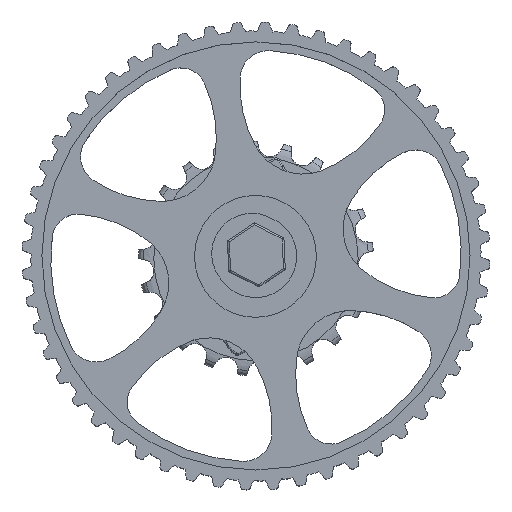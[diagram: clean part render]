
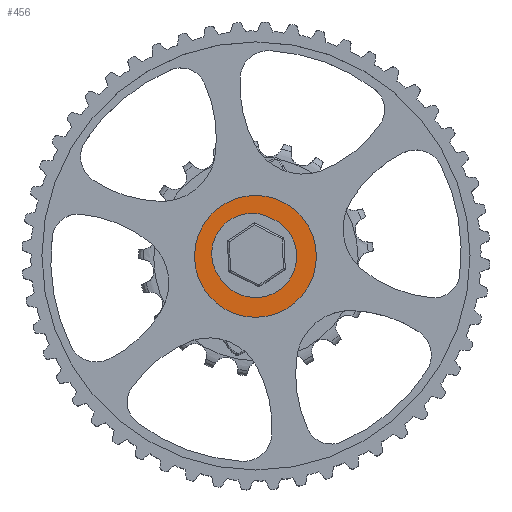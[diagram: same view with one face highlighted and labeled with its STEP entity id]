
A CAD part, top view. The second image highlights one B-rep face of the part: STEP entity #456.
In plain terms, the highlighted free-form (B-spline) face has degree [1, 1] with [2, 2] control points.
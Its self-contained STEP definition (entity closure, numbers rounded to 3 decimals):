
#456=ADVANCED_FACE('',(#1758,#1759),#1760,.T.);
#1758=FACE_BOUND('',#13340,.T.);
#1759=FACE_OUTER_BOUND('',#13341,.T.);
#1760=B_SPLINE_SURFACE_WITH_KNOTS('',1,1,((#13342,#13343),(#13344,#13345)),.UNSPECIFIED.,.F.,.F.,.F.,(2,2),(2,2),(0.0,1.0),(0.0,1.0),.UNSPECIFIED.);
#13340=EDGE_LOOP('',(#24962,#24963));
#13341=EDGE_LOOP('',(#24964));
#13342=CARTESIAN_POINT('',(-17.346,-17.307,-3.0));
#13343=CARTESIAN_POINT('',(-17.346,17.101,-3.0));
#13344=CARTESIAN_POINT('',(17.062,-17.307,-3.0));
#13345=CARTESIAN_POINT('',(17.062,17.101,-3.0));
#24962=ORIENTED_EDGE('',*,*,#28538,.F.);
#24963=ORIENTED_EDGE('',*,*,#28539,.F.);
#24964=ORIENTED_EDGE('',*,*,#28540,.T.);
#28538=EDGE_CURVE('',#31413,#31414,#31415,.T.);
#28539=EDGE_CURVE('',#31414,#31413,#31416,.T.);
#28540=EDGE_CURVE('',#31417,#31417,#31418,.T.);
#31413=VERTEX_POINT('',#38588);
#31414=VERTEX_POINT('',#38589);
#31415=CIRCLE('',#38590,11.25);
#31416=CIRCLE('',#38591,11.5);
#31417=VERTEX_POINT('',#38592);
#31418=CIRCLE('',#38593,17.0);
#38588=CARTESIAN_POINT('',(4.415,10.456,-3.0));
#38589=CARTESIAN_POINT('',(-9.324,-7.026,-3.0));
#38590=AXIS2_PLACEMENT_3D('',#43110,#43111,#43112);
#38591=AXIS2_PLACEMENT_3D('',#43113,#43114,#43115);
#38592=CARTESIAN_POINT('',(16.858,-0.103,-3.0));
#38593=AXIS2_PLACEMENT_3D('',#43116,#43117,#43118);
#43110=CARTESIAN_POINT('',(-1.1,0.65,-3.0));
#43111=DIRECTION('',(0.0,0.0,1.0));
#43112=DIRECTION('',(1.0,0.0,0.0));
#43113=CARTESIAN_POINT('',(-0.142,-0.103,-3.0));
#43114=DIRECTION('',(0.0,0.0,1.0));
#43115=DIRECTION('',(1.0,0.0,0.0));
#43116=CARTESIAN_POINT('',(-0.142,-0.103,-3.0));
#43117=DIRECTION('',(0.0,0.0,1.0));
#43118=DIRECTION('',(1.0,0.0,0.0));
